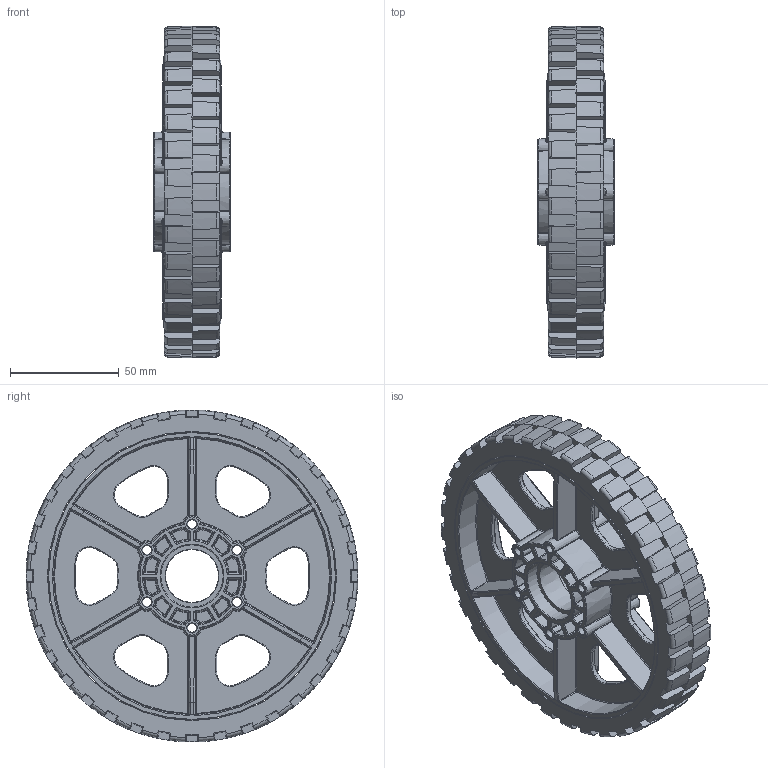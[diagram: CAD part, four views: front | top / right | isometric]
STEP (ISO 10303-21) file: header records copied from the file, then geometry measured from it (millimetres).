
FILE_DESCRIPTION(/* description */ (''),/* implementation_level */ '2;1');
FILE_NAME(/* name */ '6in HiGrip Wheel .step',/* time_stamp */ '2022-12-29T16:18:29-08:00',/* author */ (''),/* organization */ (''),/* preprocessor_version */ 'ST-DEVELOPER v19.2',/* originating_system */ 'Autodesk Translation Framework v11.17.0.187',/* authorisation */ '');
FILE_SCHEMA (('AUTOMOTIVE_DESIGN { 1 0 10303 214 3 1 1 }'));
Products named in the file (3): 6in HiGrip Wheel; 6 wheel Rev 4; 6 wheel tread II
Assembly tree (2 placements, depth 2):
  6in HiGrip Wheel
    6 wheel Rev 4
    6 wheel tread II
Bounding box: 34.92 x 152.39 x 152.39 mm (x, y, z)
Volume: 178206.6 mm3; surface area: 111203.9 mm2
Topology: 2 solids, 2 shells, 2978 faces, 6914 edges, 3819 vertices
Faces by surface type: bspline 704, cylinder 683, plane 601, torus 598, sphere 206, cone 186
Full cylindrical faces by diameter (mm): 3.988 x6, 28.575 x2
Entity records: 115367 total; most frequent: CARTESIAN_POINT 50658, DIRECTION 13549, ORIENTED_EDGE 13532, EDGE_CURVE 6766, AXIS2_PLACEMENT_3D 5812, VERTEX_POINT 3819, CIRCLE 3143, EDGE_LOOP 3033
